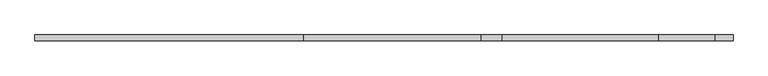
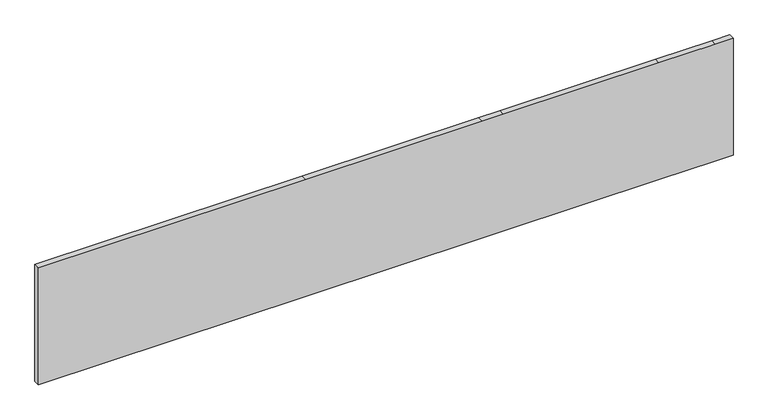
"""IFC4 building model written with IfcOpenShell, lengths in millimetres: plate geometry, Системная панель : С остеклением."""

from ifc_helpers import new_model, si_unit, frame, origin, place, context, project, spatial, polyline, outline, extrude, source, transform, mapped, element, save


def plate_d27de680(model_context):
    return source(origin(), model_context, "Body", "SweptSolid", [
        extrude(outline(polyline([(0.0, -1475.0), (0.0, -340.0), (0.0, 410.0), (0.0, 500.0), (0.0, 1160.0), (0.0, 1400.0), (0.0, 1475.0), (525.0, 1475.0), (525.0, 1400.0), (525.0, 1160.0), (525.0, 500.0), (525.0, 410.0), (525.0, -340.0), (525.0, -1475.0), (0.0, -1475.0)])), frame((0.0, -49.5, 0.0), z_axis=(0.0, 1.0, 0.0), x_axis=(0.0, 0.0, 1.0)), (0.0, 0.0, 1.0), 25.0),
    ])


if __name__ == "__main__":
    model = new_model("IFC4")
    model_context = context("Model", 3, world=origin())
    ifc_project = project(units=[si_unit("LENGTHUNIT", "METRE", prefix="MILLI")], contexts=[model_context])
    site = spatial("IfcSite", under=ifc_project)
    building = spatial("IfcBuilding", under=site)
    placement = place(None, origin())
    plate_shape = plate_d27de680(model_context)
    element("IfcPlate", 1, ObjectType="Системная панель : С остеклением", at=placement, inside=building, context=model_context, shape_type="MappedRepresentation", body=[
        mapped(plate_shape, transform((0.0, 0.0, 0.0), x_axis=(1.0, 0.0, 0.0), y_axis=(0.0, 1.0, 0.0), z_axis=(0.0, 0.0, 1.0))),
    ])
    save(model, "model.ifc")
